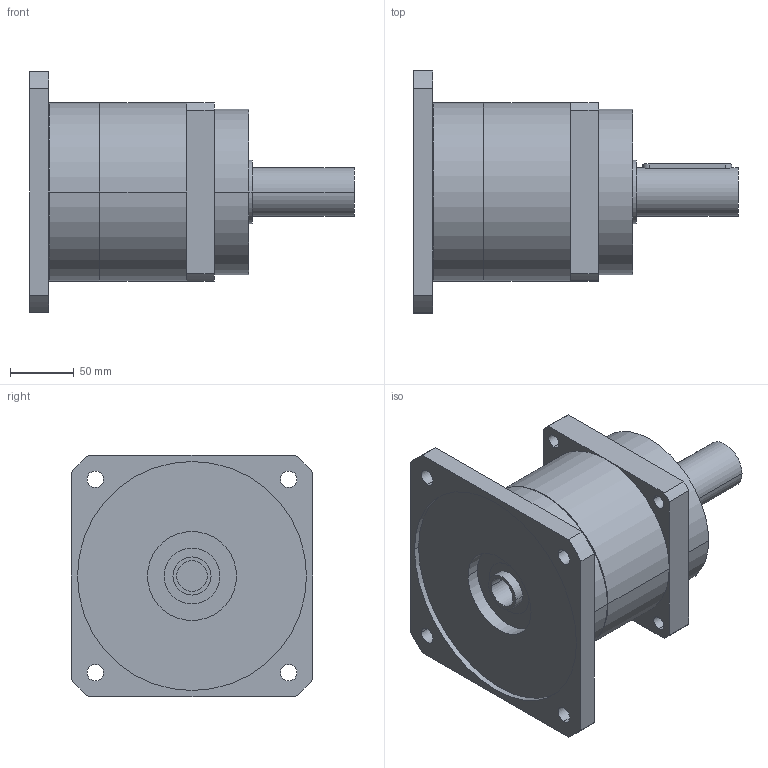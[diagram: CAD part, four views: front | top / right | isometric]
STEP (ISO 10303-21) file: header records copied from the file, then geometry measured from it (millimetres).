
FILE_DESCRIPTION(('CoCreate Modeling STEP Export'),'2;1');
FILE_NAME('GPR150_ig-3-4-5-7_38_B5_24_P06.stp','2014-08-19T16:42:25',(''),(''),'CoCreate Modeling STEP processor for AP214 (Solid Model)','CoCreate Modeling 16.00C 25-Feb-2009 (C) Parametric Technology GmbH','');
FILE_SCHEMA(('AUTOMOTIVE_DESIGN { 1 0 10303 214 1 1 1 1 }'));
Length unit declared in the file: millimetre
Products named in the file (2): GPR150_ig-3-4-5-7_38_B5_24_P06
Assembly tree (1 placements, depth 2):
  GPR150_ig-3-4-5-7_38_B5_24_P06
    GPR150_ig-3-4-5-7_38_B5_24_P06
Bounding box: 255 x 190 x 190 mm (x, y, z)
Volume: 2894313.5 mm3; surface area: 185899.8 mm2
Topology: 1 solids, 1 shells, 81 faces, 220 edges, 150 vertices
Faces by surface type: cylinder 48, plane 27, cone 6
Entity records: 2325 total; most frequent: ORIENTED_EDGE 436, CARTESIAN_POINT 431, DIRECTION 330, EDGE_CURVE 218, VERTEX_POINT 150, AXIS2_PLACEMENT_3D 121, EDGE_LOOP 108, VECTOR 88
